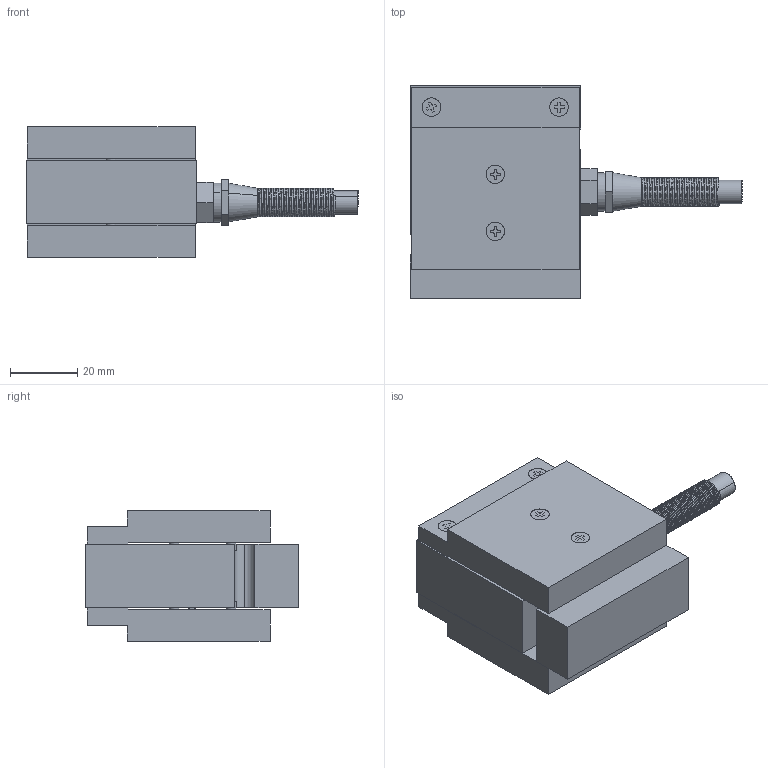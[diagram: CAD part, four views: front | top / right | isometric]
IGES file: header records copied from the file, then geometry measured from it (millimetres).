
Start section: SolidWorks IGES file using analytic representation for surfaces
Global section: file name: O:\16-Entwicklung\Projekte\03_Kraftsensoren\0226_KT1402\01_Mechanik & Gehäuse\01_Solid Works\01_Outline 3D files\Volumenmodell\3D_KM1402_500N 1000N.IGS; native system: SolidWorks 2012; preprocessor: SolidWorks 2012; author: AndreB; date: 140117.140913; units: metre
Bounding box: 98.9 x 63.5 x 39 mm (x, y, z)
Surface area: 28103.1 mm2 (no closed solid volume)
Topology: 0 solids, 0 shells, 86 faces, 1763 edges, 1763 vertices
Faces by surface type: bspline 69, revolution 17
